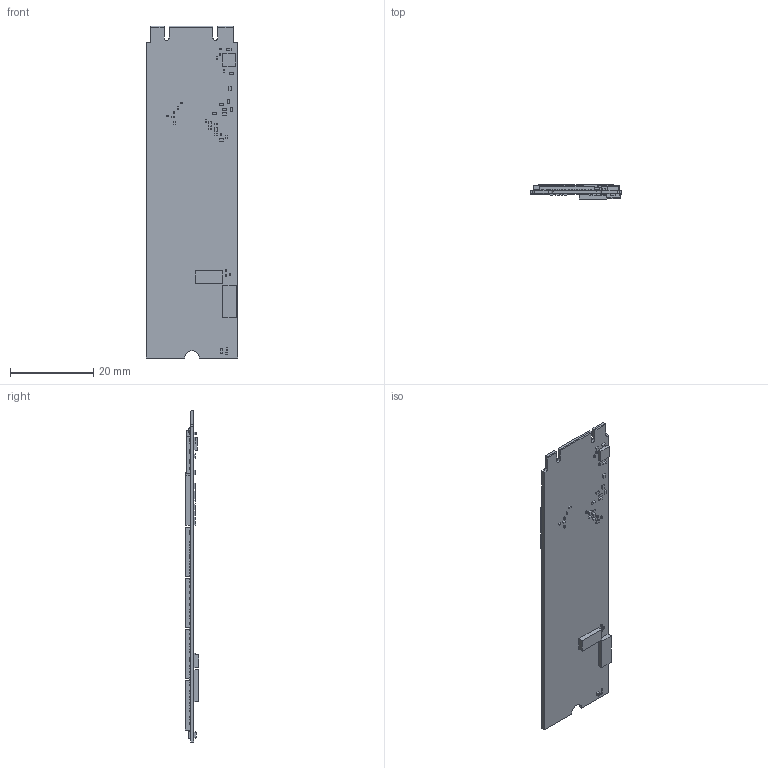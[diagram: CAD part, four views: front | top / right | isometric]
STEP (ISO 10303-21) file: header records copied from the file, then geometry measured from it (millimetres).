
FILE_DESCRIPTION((''),'2;1');
FILE_NAME('PCBA_M2_2280-D3-B-M_ASM','2018-01-30T',('otto_lian'),(''),'PRO/ENGINEER BY PARAMETRIC TECHNOLOGY CORPORATION, 2011180','PRO/ENGINEER BY PARAMETRIC TECHNOLOGY CORPORATION, 2011180','');
FILE_SCHEMA(('CONFIG_CONTROL_DESIGN'));
Length unit declared in the file: millimetre
Products named in the file (26): PCB_M2_2280-D3-B-M; BGA56P_3P59X3P19_0P4; B0603; BGA96P_9X14_0P8; BGA324P_12X12_0P65; DFN10P_3X3_0P5_EP; F1210; SOT_563_6P_1P6X1P2_0P5; SOD_882; TSOP8P_3X4P4_0P65; R0805; XTAL4P_1612; D0603; KM_FPC12P_0P5; CA0402; R0201; C0402; C0603; C0201; L_201610; L_252012; BGA132P_12X18_1P0; LED0603; DFN3P_1X0P6; D058008GF004803E_3D_2018-0130_ASM; PCBA_M2_2280-D3-B-M_ASM
Assembly tree (204 placements, depth 3):
  PCBA_M2_2280-D3-B-M_ASM
    PCB_M2_2280-D3-B-M
    D058008GF004803E_3D_2018-0130_ASM
      BGA56P_3P59X3P19_0P4
      B0603
      BGA96P_9X14_0P8
      BGA324P_12X12_0P65
      DFN10P_3X3_0P5_EP
      F1210
      SOT_563_6P_1P6X1P2_0P5
      SOD_882
      TSOP8P_3X4P4_0P65
      R0805
      XTAL4P_1612
      D0603
      KM_FPC12P_0P5
      CA0402  x23
      R0201  x58
      C0402  x6
      C0603  x7
      C0201  x80
      L_201610  x3
      L_252012  x2
      BGA132P_12X18_1P0  x4
      LED0603  x2
      DFN3P_1X0P6  x4
Bounding box: 22 x 3.35 x 80 mm (x, y, z)
Volume: 2982.6 mm3; surface area: 6949 mm2
Topology: 203 solids, 203 shells, 1240 faces, 2795 edges, 1962 vertices
Faces by surface type: plane 1235, cylinder 5
Entity records: 9138 total; most frequent: DIRECTION 1921, CARTESIAN_POINT 1508, ORIENTED_EDGE 708, AXIS2_PLACEMENT_3D 649, VECTOR 623, LINE 623, EDGE_CURVE 354, TRIMMED_CURVE 293
